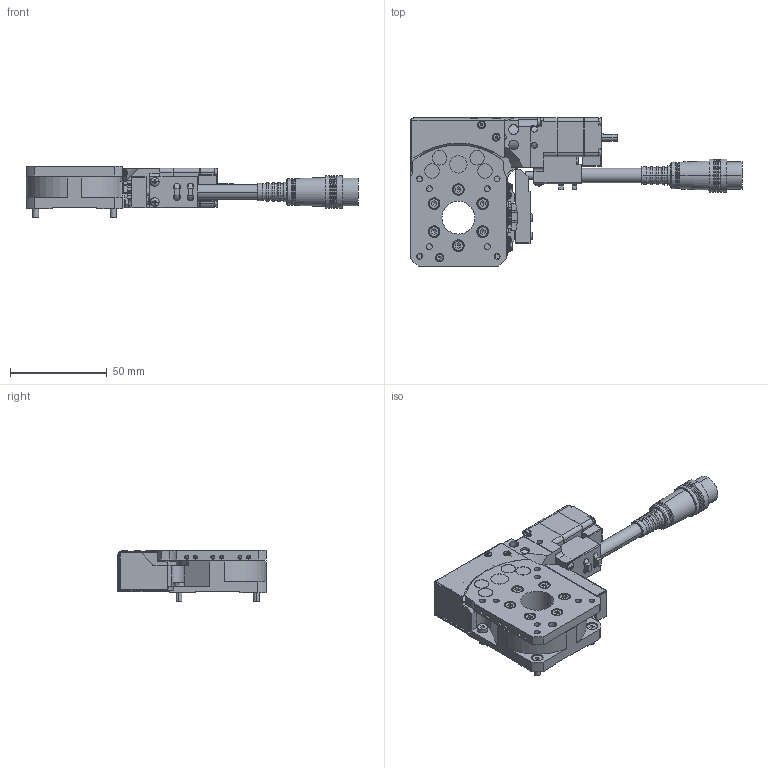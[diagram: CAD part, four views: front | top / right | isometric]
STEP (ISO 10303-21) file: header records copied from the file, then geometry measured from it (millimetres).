
FILE_DESCRIPTION( (''), '2;1');
FILE_NAME ('RA05A-T01-R.stp','2022-03-30T18:36:22',(''),(''),'spGate 17.5.5','','');
FILE_SCHEMA (('AUTOMOTIVE_DESIGN'));
Length unit declared in the file: millimetre
Products named in the file (6): Assembly; RA05A-T01-R-prt0; RA05A-T01-R-prt1; RA05A-T01-R-prt2; RA05A-T01-R-prt3; RA05A-T01-R-prt4
Assembly tree (5 placements, depth 2):
  Assembly
    RA05A-T01-R-prt0
    RA05A-T01-R-prt1
    RA05A-T01-R-prt2
    RA05A-T01-R-prt3
    RA05A-T01-R-prt4
Bounding box: 171.5 x 76.5 x 26.5 mm (x, y, z)
Volume: 100494.8 mm3; surface area: 42798.6 mm2
Topology: 5 solids, 6 shells, 1423 faces, 3614 edges, 2255 vertices
Faces by surface type: plane 797, cylinder 413, bspline 199, sphere 14
Entity records: 72698 total; most frequent: CARTESIAN_POINT 10545, ORIENTED_EDGE 7126, DIRECTION 6746, COLOUR_RGB 4991, PRESENTATION_STYLE_ASSIGNMENT 4991, STYLED_ITEM 4991, EDGE_CURVE 3563, DRAUGHTING_PRE_DEFINED_CURVE_FONT 3563
